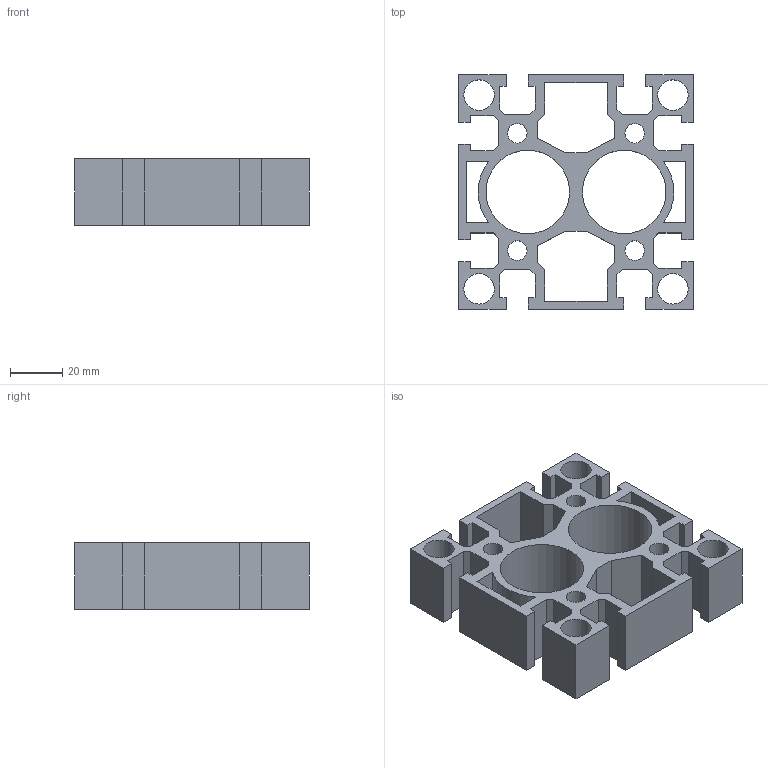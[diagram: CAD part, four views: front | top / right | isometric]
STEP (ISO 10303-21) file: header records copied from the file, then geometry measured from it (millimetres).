
FILE_DESCRIPTION((''),'2;1');
FILE_NAME('C:\Documents and Settings\Administrator\My Documents\Andys Backup Data\STEP LIBRARIES\MINITEC STEP LIBRARIES\ALUMINUM PROFILES\20.1019 90X90 S.stp','2008-10-20T12:29:34',('Administrator'),(''),'Autodesk Inventor 2009','Autodesk Inventor 2009','');
FILE_SCHEMA(('AUTOMOTIVE_DESIGN { 1 0 10303 214 1 1 1 1 }'));
Length unit declared in the file: inch
Products named in the file (1): 20.1019 90X90 S
Bounding box: 90 x 90 x 25.4 mm (x, y, z)
Volume: 72164.6 mm3; surface area: 42364.4 mm2
Topology: 1 solids, 1 shells, 124 faces, 366 edges, 244 vertices
Faces by surface type: plane 112, cylinder 12
Full cylindrical faces by diameter (mm): 7.5 x4, 11.7 x4, 32 x2
Entity records: 4108 total; most frequent: CARTESIAN_POINT 725, ORIENTED_EDGE 712, DIRECTION 630, EDGE_CURVE 356, VECTOR 332, LINE 332, VERTEX_POINT 244, EDGE_LOOP 162
